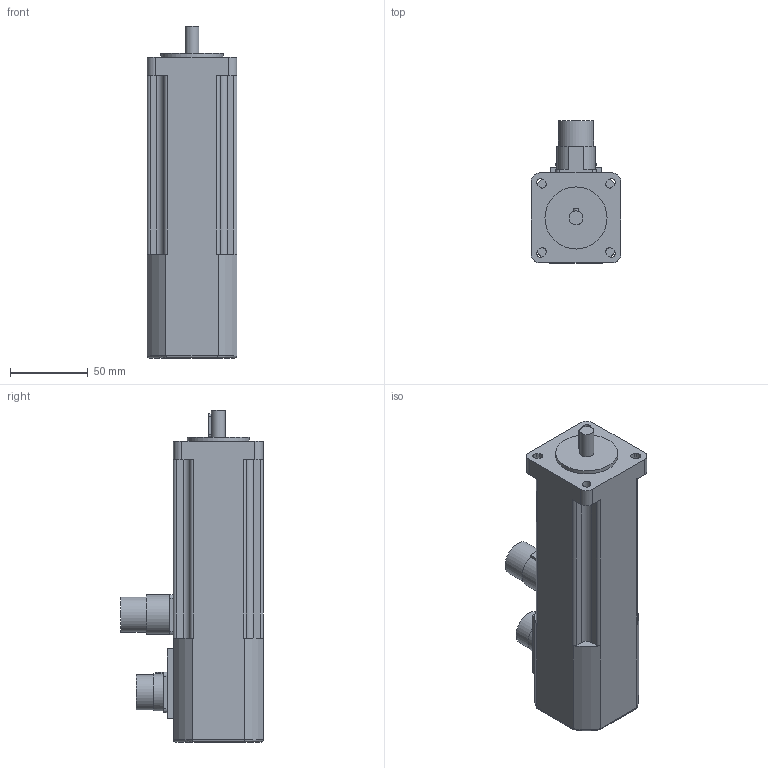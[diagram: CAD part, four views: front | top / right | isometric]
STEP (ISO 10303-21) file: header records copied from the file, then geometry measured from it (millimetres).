
FILE_DESCRIPTION(/* description */ (''),/* implementation_level */ '2;1');
FILE_NAME(/* name */ '\\Lafnas01\disegni\Archivi Lafert\3D\CAD 3D\MODELLI\Assiemi clienti\Serad\Modelli 3D Serad\B28I\Encoder\Enc Without Brake\B28D8Ixx4ARx0033.ipt.stp',/* time_stamp */ '2015-09-07T10:48:07+02:00',/* author */ ('Pastrello Ylenia'),/* organization */ (''),/* preprocessor_version */ 'ST-DEVELOPER v15.6',/* originating_system */ 'Autodesk Inventor 2015',/* authorisation */ '');
FILE_SCHEMA (('AUTOMOTIVE_DESIGN { 1 0 10303 214 3 1 1 }'));
Length unit declared in the file: millimetre
Products named in the file (1): B28D8Ixx4ARx0033
Bounding box: 58 x 92 x 214 mm (x, y, z)
Volume: 614563.7 mm3; surface area: 55138.6 mm2
Topology: 1 solids, 1 shells, 138 faces, 368 edges, 239 vertices
Faces by surface type: plane 76, cylinder 58, torus 4
Full cylindrical faces by diameter (mm): 9 x1, 22.7 x2, 24 x1, 40 x1
Entity records: 4389 total; most frequent: CARTESIAN_POINT 872, DIRECTION 741, ORIENTED_EDGE 720, EDGE_CURVE 359, AXIS2_PLACEMENT_3D 255, VERTEX_POINT 236, LINE 231, VECTOR 231
